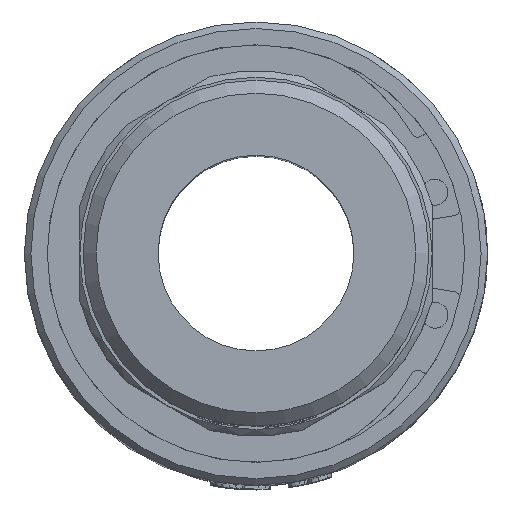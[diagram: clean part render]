
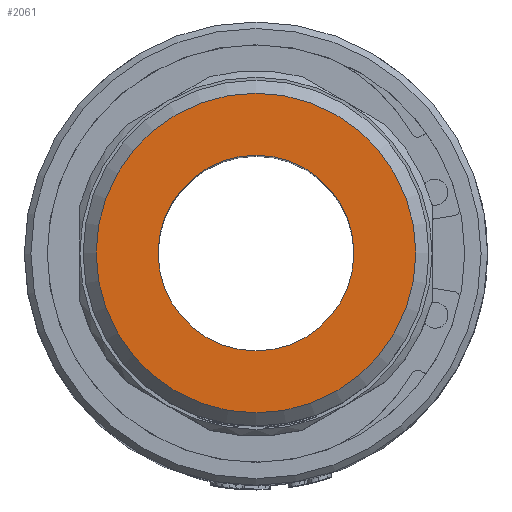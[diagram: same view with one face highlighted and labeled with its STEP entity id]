
A CAD part, top view. The second image highlights one B-rep face of the part: STEP entity #2061.
In plain terms, the highlighted planar face has unit normal (0, 0, 1).
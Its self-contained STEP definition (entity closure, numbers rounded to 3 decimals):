
#250=FACE_BOUND('',#5950,.T.);
#251=FACE_BOUND('',#5951,.T.);
#475=CIRCLE('',#21117,7.5);
#552=CIRCLE('',#21259,12.25);
#862=PLANE('',#21260);
#2061=ADVANCED_FACE('',(#250,#251),#862,.T.);
#5950=EDGE_LOOP('',(#10345));
#5951=EDGE_LOOP('',(#10346));
#10345=ORIENTED_EDGE('',*,*,#16891,.T.);
#10346=ORIENTED_EDGE('',*,*,#16741,.T.);
#13940=VERTEX_POINT('',#39821);
#14037=VERTEX_POINT('',#40211);
#16741=EDGE_CURVE('',#13940,#13940,#475,.T.);
#16891=EDGE_CURVE('',#14037,#14037,#552,.T.);
#21117=AXIS2_PLACEMENT_3D('',#39820,#22955,#22956);
#21259=AXIS2_PLACEMENT_3D('',#40210,#23286,#23287);
#21260=AXIS2_PLACEMENT_3D('',#40212,#23288,#23289);
#22955=DIRECTION('',(0.,0.,-1.));
#22956=DIRECTION('',(1.,0.,0.));
#23286=DIRECTION('',(0.,0.,1.));
#23287=DIRECTION('',(1.,0.,0.));
#23288=DIRECTION('',(0.,0.,1.));
#23289=DIRECTION('',(1.,0.,0.));
#39820=CARTESIAN_POINT('',(0.,0.,65.));
#39821=CARTESIAN_POINT('',(7.5,0.,65.));
#40210=CARTESIAN_POINT('',(0.,0.,65.));
#40211=CARTESIAN_POINT('',(12.25,0.,65.));
#40212=CARTESIAN_POINT('',(0.,0.,65.));
